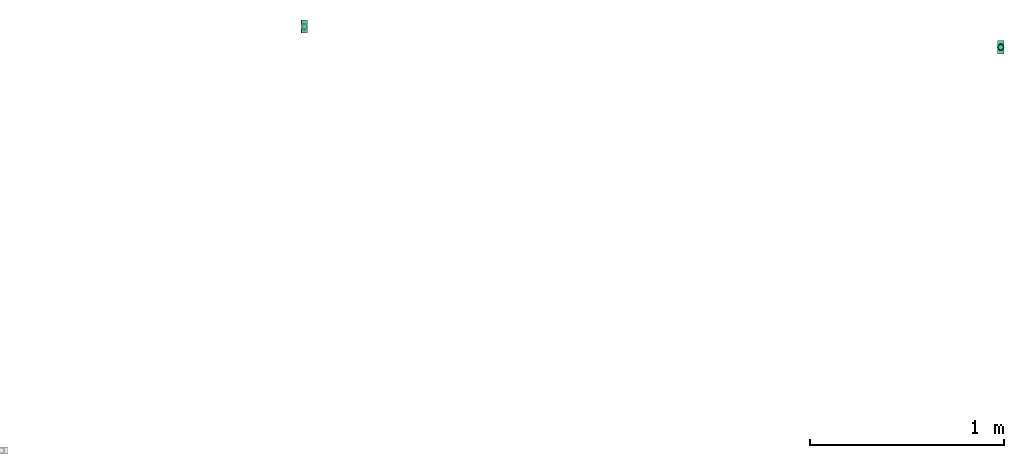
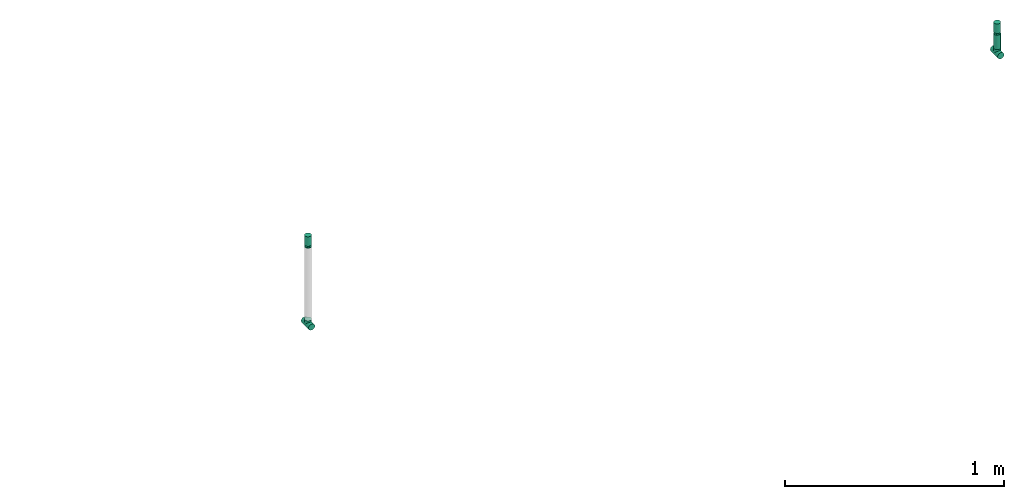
# One storey, part 2 of 2: 4 flow fittings, 2 flow terminals, 1 flow segment.
"""IFC2X3 building model written with IfcOpenShell, lengths in millimetres."""

from ifc_helpers import new_model, entity, si_unit, converted_unit, derived_unit, direction, frame, origin_with_axes, origin_2d_with_axis, place, context, subcontext, project, spatial, hollow_circle, extrude, open_shell, surface_model, source, transform, mapped, type_object, element, save


model = new_model("IFC2X3")

# Units and contexts
model_context = context("Model", 3, precision=0.01, world=frame((0.0, 4.29681676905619e-09, 0.0)), true_north=direction((4.01073788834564e-13, 1.0)))
plan_context = context("Plan", 3, precision=0.01, world=frame((0.0, 4.29681676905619e-09, 0.0)), true_north=direction((4.01073788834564e-13, 1.0)))
body_context = subcontext(model_context, "Body", "Model", "MODEL_VIEW")
ifc_project = project(units=[converted_unit("PLANEANGLEUNIT", "DEGREE", entity("IfcPositiveLengthMeasure", 0.0174532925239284), si_unit("PLANEANGLEUNIT", "RADIAN"), dimensions=[0, 0, 0, 0, 0, 0, 0]), si_unit("AREAUNIT", "SQUARE_METRE"), si_unit("LENGTHUNIT", "METRE", prefix="MILLI"), si_unit("MASSUNIT", "GRAM", prefix="KILO"), si_unit("POWERUNIT", "WATT"), si_unit("PRESSUREUNIT", "PASCAL", prefix="KILO"), si_unit("FORCEUNIT", "NEWTON", prefix="KILO"), si_unit("ELECTRICVOLTAGEUNIT", "VOLT"), si_unit("ELECTRICCURRENTUNIT", "AMPERE"), si_unit("THERMODYNAMICTEMPERATUREUNIT", "DEGREE_CELSIUS"), si_unit("TIMEUNIT", "SECOND"), si_unit("VOLUMEUNIT", "CUBIC_METRE"), derived_unit("LINEARVELOCITYUNIT", [(si_unit("LENGTHUNIT", "METRE"), 1), (si_unit("TIMEUNIT", "SECOND"), -1)]), derived_unit("VOLUMETRICFLOWRATEUNIT", [(si_unit("VOLUMEUNIT", "CUBIC_METRE"), 1), (si_unit("TIMEUNIT", "SECOND"), -1)]), derived_unit("THERMALTRANSMITTANCEUNIT", [(si_unit("POWERUNIT", "WATT"), 1), (si_unit("THERMODYNAMICTEMPERATUREUNIT", "KELVIN"), -1), (si_unit("AREAUNIT", "SQUARE_METRE"), -1)]), derived_unit("SOUNDPRESSUREUNIT", [(si_unit("PRESSUREUNIT", "PASCAL"), 1)])], contexts=[model_context, plan_context])

# Site, building, storey
site_placement = place(None, frame((0.0, -4.29681676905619e-09, 0.0), z_axis=(0.0, 0.0, 1.0), x_axis=(1.0, 0.0, 0.0)))
site = spatial("IfcSite", under=ifc_project, at=site_placement, CompositionType="ELEMENT")
building_placement = place(site_placement, frame((0.0, 4.29681676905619e-09, 0.0), z_axis=(0.0, 0.0, 1.0), x_axis=(1.0, 0.0, 0.0)))
building = spatial("IfcBuilding", under=site, at=building_placement, Name="mc-building", CompositionType="ELEMENT")
storey_placement = place(building_placement, frame((0.0, 0.0, 205200.0), z_axis=(0.0, 0.0, 1.0), x_axis=(1.0, 0.0, 0.0)))
storey = spatial("IfcBuildingStorey", under=building, at=storey_placement, Name="Nivå D + 1,2 m", CompositionType="ELEMENT", Elevation=205200.0)

# Flow fittings
pipe_fitting_type_1 = type_object("IfcPipeFittingType", Name="magi_pipe_fe_tee_centric_90_NOR", PredefinedType="JUNCTION")
shared_shape_1 = source(origin_with_axes(), body_context, "Body", "SurfaceModel", [
    surface_model("IfcShellBasedSurfaceModel", [(-33.8, 4.37404, -16.32415), (-33.8, 0.0, -16.9), (-33.8, 16.32415, -4.37404), (-33.8, 8.45, -14.63583), (-33.8, 11.9501, -11.9501), (-33.8, 14.63583, -8.45), (-33.8, -16.9, 0.0), (-33.8, -11.9501, -11.9501), (-33.8, -14.63583, -8.45), (-33.8, -8.45, -14.63583), (-33.8, -4.37404, -16.32415), (-33.8, -16.32415, -4.37404), (-33.8, 14.63583, 8.45), (-33.8, 16.32415, 4.37404), (-33.8, -8.45, 14.63583), (-33.8, 8.45, 14.63583), (-33.8, 11.9501, 11.9501), (-33.8, 4.37404, 16.32415), (-33.8, 0.0, 16.9), (-33.8, -11.9501, 11.9501), (-33.8, -14.63583, 8.45), (-33.8, -16.32415, 4.37404), (-33.8, -4.37404, 16.32415), (-33.8, 16.9, 0.0), (33.8, 4.37404, -16.32415), (33.8, -16.9, 0.0), (33.8, 0.0, -16.9), (33.8, 14.63583, -8.45), (33.8, 8.45, -14.63583), (33.8, 16.32415, -4.37404), (33.8, 11.9501, -11.9501), (33.8, -16.32415, 4.37404), (33.8, -8.45, -14.63583), (33.8, -4.37404, -16.32415), (33.8, -11.9501, -11.9501), (33.8, -14.63583, -8.45), (33.8, -16.32415, -4.37404), (33.8, 16.32415, 4.37404), (33.8, 8.45, 14.63583), (33.8, 14.63583, 8.45), (33.8, 11.9501, 11.9501), (33.8, -8.45, 14.63583), (33.8, 4.37404, 16.32415), (33.8, -14.63583, 8.45), (33.8, -11.9501, 11.9501), (33.8, 0.0, 16.9), (33.8, -4.37404, 16.32415), (33.8, 16.9, 0.0), (16.28698, -16.28698, 4.51047), (16.9, -16.9, 0.0), (14.62704, -14.62704, 8.4652), (9.47213, -9.47213, 13.99602), (12.26343, -12.26343, 11.62834), (-16.9, -16.9, 0.0), (-16.28698, -16.28698, 4.51047), (-14.62704, -14.62704, 8.4652), (-12.26343, -12.26343, 11.62834), (-9.47213, -9.47213, 13.99602), (-6.42894, -6.42894, 15.62942), (6.42894, -6.42894, 15.62942), (3.24522, -3.24522, 16.58549), (0.0, 0.0, 16.9), (-3.24522, -3.24522, 16.58549), (3.24522, -3.24522, -16.58549), (0.0, 0.0, -16.9), (-3.24522, -3.24522, -16.58549), (-6.42894, -6.42894, -15.62942), (6.42894, -6.42894, -15.62942), (9.47213, -9.47213, -13.99602), (12.26343, -12.26343, -11.62834), (14.62704, -14.62704, -8.4652), (16.28698, -16.28698, -4.51047), (-9.47213, -9.47213, -13.99602), (-12.26343, -12.26343, -11.62834), (-16.28698, -16.28698, -4.51047), (-14.62704, -14.62704, -8.4652), (4.37404, -25.35, -16.32415), (-16.9, -25.35, 0.0), (0.0, -25.35, -16.9), (14.63583, -25.35, -8.45), (8.45, -25.35, -14.63583), (16.32415, -25.35, -4.37404), (11.9501, -25.35, -11.9501), (-11.9501, -25.35, -11.9501), (-8.45, -25.35, -14.63583), (-4.37404, -25.35, -16.32415), (-14.63583, -25.35, -8.45), (-16.32415, -25.35, -4.37404), (16.9, -25.35, 0.0), (8.45, -25.35, 14.63583), (16.32415, -25.35, 4.37404), (14.63583, -25.35, 8.45), (-8.45, -25.35, 14.63583), (11.9501, -25.35, 11.9501), (4.37404, -25.35, 16.32415), (-16.32415, -25.35, 4.37404), (-11.9501, -25.35, 11.9501), (-14.63583, -25.35, 8.45), (0.0, -25.35, 16.9), (-4.37404, -25.35, 16.32415)], [open_shell([[[0, 1, 2]], [[3, 0, 4]], [[0, 2, 5]], [[4, 0, 5]], [[6, 2, 1]], [[7, 8, 9]], [[1, 10, 9]], [[11, 6, 8]], [[1, 9, 8]], [[1, 8, 6]], [[6, 12, 2]], [[12, 13, 2]], [[14, 12, 6]], [[12, 14, 15]], [[16, 12, 15]], [[17, 15, 18]], [[19, 14, 20]], [[21, 20, 14]], [[22, 18, 14]], [[14, 6, 21]], [[14, 18, 15]], [[23, 2, 13]], [[24, 25, 26]], [[27, 24, 28]], [[27, 29, 24]], [[27, 28, 30]], [[31, 25, 24]], [[26, 32, 33]], [[26, 34, 32]], [[35, 25, 36]], [[35, 34, 26]], [[25, 35, 26]], [[24, 29, 31]], [[29, 37, 38]], [[38, 37, 39]], [[38, 31, 29]], [[38, 39, 40]], [[41, 38, 42]], [[43, 41, 44]], [[41, 43, 31]], [[41, 45, 46]], [[41, 31, 38]], [[42, 45, 41]], [[29, 47, 37]], [[31, 43, 48]], [[25, 31, 49]], [[49, 31, 48]], [[43, 50, 48]], [[44, 41, 51]], [[50, 43, 52]], [[51, 52, 44]], [[52, 43, 44]], [[53, 54, 21]], [[53, 21, 6]], [[21, 54, 20]], [[54, 55, 20]], [[56, 57, 19]], [[19, 20, 56]], [[19, 57, 14]], [[56, 20, 55]], [[14, 57, 58]], [[51, 41, 59]], [[60, 45, 61]], [[59, 46, 60]], [[46, 59, 41]], [[60, 46, 45]], [[61, 45, 42]], [[39, 37, 13]], [[16, 38, 40]], [[12, 40, 39]], [[42, 38, 15]], [[23, 37, 47]], [[62, 61, 18]], [[62, 22, 58]], [[22, 62, 18]], [[58, 22, 14]], [[61, 17, 18]], [[42, 17, 61]], [[15, 17, 42]], [[15, 38, 16]], [[12, 16, 40]], [[13, 12, 39]], [[37, 23, 13]], [[5, 27, 30]], [[23, 47, 29]], [[30, 28, 3]], [[27, 2, 29]], [[26, 33, 63]], [[26, 64, 24]], [[64, 26, 63]], [[28, 24, 0]], [[64, 0, 24]], [[4, 30, 3]], [[2, 27, 5]], [[5, 30, 4]], [[2, 23, 29]], [[65, 66, 10]], [[1, 0, 64]], [[1, 65, 10]], [[66, 9, 10]], [[0, 3, 28]], [[1, 64, 65]], [[63, 33, 67]], [[32, 34, 68]], [[69, 68, 34]], [[35, 70, 69]], [[69, 34, 35]], [[32, 68, 67]], [[36, 25, 49]], [[36, 71, 35]], [[71, 36, 49]], [[35, 71, 70]], [[72, 9, 66]], [[72, 7, 9]], [[7, 72, 73]], [[7, 73, 8]], [[74, 53, 11]], [[75, 74, 8]], [[74, 11, 8]], [[11, 53, 6]], [[75, 8, 73]], [[32, 67, 33]], [[76, 77, 78]], [[79, 76, 80]], [[79, 81, 76]], [[79, 80, 82]], [[77, 76, 81]], [[78, 83, 84]], [[84, 85, 78]], [[86, 77, 87]], [[83, 78, 86]], [[77, 86, 78]], [[81, 88, 77]], [[89, 88, 90]], [[89, 90, 91]], [[92, 77, 89]], [[89, 91, 93]], [[92, 89, 94]], [[95, 96, 97]], [[96, 95, 92]], [[92, 98, 99]], [[95, 77, 92]], [[94, 98, 92]], [[89, 77, 88]], [[77, 95, 53]], [[54, 53, 95]], [[97, 96, 56]], [[96, 92, 57]], [[95, 97, 54]], [[58, 92, 99]], [[55, 54, 97]], [[56, 55, 97]], [[58, 57, 92]], [[98, 61, 62]], [[58, 99, 62]], [[56, 96, 57]], [[62, 99, 98]], [[94, 60, 98]], [[89, 59, 94]], [[91, 90, 48]], [[52, 93, 91]], [[93, 51, 89]], [[49, 90, 88]], [[59, 60, 94]], [[51, 59, 89]], [[49, 48, 90]], [[50, 52, 91]], [[48, 50, 91]], [[51, 93, 52]], [[98, 60, 61]], [[88, 81, 49]], [[71, 49, 81]], [[79, 82, 69]], [[82, 80, 68]], [[81, 79, 71]], [[67, 80, 76]], [[70, 71, 79]], [[69, 70, 79]], [[67, 68, 80]], [[78, 64, 63]], [[67, 76, 63]], [[69, 82, 68]], [[63, 76, 78]], [[85, 65, 78]], [[84, 66, 85]], [[86, 87, 74]], [[86, 73, 83]], [[72, 84, 83]], [[53, 87, 77]], [[66, 65, 85]], [[72, 66, 84]], [[53, 74, 87]], [[75, 73, 86]], [[74, 75, 86]], [[72, 83, 73]], [[78, 65, 64]]])]),
])
for number, where, z_axis, x_axis, name in (
    (1, (598972.72783, 404497.47697, 1263.04800000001), (1.0, 0.0, 0.0), (0.0, -1.0, 0.0), "magi_pipe_fe_tee_centric_90_NOR"),
    (2, (602552.91449, 404391.26037, 1590.0), (1.0, 0.0, 0.0), (0.0, -1.0, 0.0), "magi_pipe_fe_tee_centric_90_NOR"),
):
    element("IfcFlowFitting", number, at=place(storey_placement, frame(where, z_axis=z_axis, x_axis=x_axis)), inside=storey, type_object=pipe_fitting_type_1, Name=name, context=body_context, shape_type="MappedRepresentation", body=[
        mapped(shared_shape_1, transform((0.0, 0.0, 0.0), scale=1.0)),
    ])
pipe_fitting_type_2 = type_object("IfcPipeFittingType", Name="magi_pipe_fe_reducer_centric_short_NOR", PredefinedType="TRANSITION")
shared_shape_2 = source(origin_with_axes(), body_context, "Body", "SurfaceModel", [
    surface_model("IfcShellBasedSurfaceModel", [(-2.0, -7.56604, -7.56604), (-2.0, -10.33541, -2.76936), (-2.0, -5.35, -9.26647), (-2.0, 5.35, -9.26647), (-2.0, 10.33541, -2.76936), (-2.0, 7.56604, -7.56604), (12.4, 11.9501, 11.9501), (12.4, 0.0, 16.9), (12.4, 11.9501, -11.9501), (12.4, 16.9, 0.0), (0.0, -10.7, 0.0), (0.0, -5.35, 9.26647), (0.0, -5.35, -9.26647), (0.0, 10.7, 0.0), (12.4, 15.66253, -2.98753), (12.4, 8.96258, -13.18758), (0.0, 6.6875, -6.94985), (12.4, -15.66253, -2.98753), (12.4, -16.9, 0.0), (12.4, 5.97505, -14.42505), (0.0, 5.35, -9.26647), (12.4, 14.42505, -5.97505), (0.0, 8.025, -4.63324), (0.0, 9.3625, -2.31662), (0.0, -9.3625, -2.31662), (0.0, -8.025, -4.63324), (12.4, -14.42505, -5.97505), (12.4, 13.18758, -8.96258), (12.4, -13.18758, -8.96258), (12.4, -11.9501, -11.9501), (0.0, -6.6875, -6.94985), (12.4, -8.96258, -13.18758), (12.4, -5.97505, -14.42505), (12.4, -15.66253, 2.98753), (12.4, -8.96258, 13.18758), (0.0, -6.6875, 6.94985), (12.4, -11.9501, 11.9501), (12.4, 15.66253, 2.98753), (12.4, -5.97505, 14.42505), (12.4, -14.42505, 5.97505), (0.0, -8.025, 4.63324), (0.0, -9.3625, 2.31662), (0.0, 9.3625, 2.31662), (0.0, 8.025, 4.63324), (12.4, 14.42505, 5.97505), (12.4, -13.18758, 8.96258), (12.4, 13.18758, 8.96258), (0.0, 6.6875, 6.94985), (12.4, 8.96258, 13.18758), (0.0, 5.35, 9.26647), (12.4, 5.97505, 14.42505), (14.4, 4.37404, -16.32415), (14.4, 8.45, -14.63583), (14.4, 11.9501, -11.9501), (14.4, -8.45, -14.63583), (14.4, 16.32415, -4.37404), (14.4, 16.32415, 4.37404), (14.4, 14.63583, -8.45), (14.4, 0.0, -16.9), (14.4, -4.37404, -16.32415), (14.4, -11.9501, -11.9501), (14.4, -16.32415, -4.37404), (14.4, -14.63583, -8.45), (14.4, -16.32415, 4.37404), (14.4, 16.9, 0.0), (14.4, 14.63583, 8.45), (14.4, 11.9501, 11.9501), (14.4, 4.37404, 16.32415), (14.4, 8.45, 14.63583), (14.4, 0.0, 16.9), (14.4, -14.63583, 8.45), (14.4, -16.9, 0.0), (14.4, -8.45, 14.63583), (14.4, -11.9501, 11.9501), (14.4, -4.37404, 16.32415), (12.4, 4.37404, 16.32415), (12.4, -14.63583, 8.45), (12.4, 16.32415, 4.37404), (12.4, 8.45, 14.63583), (12.4, 14.63583, 8.45), (12.4, -8.45, 14.63583), (12.4, -4.37404, 16.32415), (12.4, -16.32415, 4.37404), (12.4, -16.32415, -4.37404), (12.4, -8.45, -14.63583), (12.4, 16.32415, -4.37404), (12.4, 14.63583, -8.45), (12.4, 8.45, -14.63583), (12.4, 4.37404, -16.32415), (12.4, 0.0, -16.9), (12.4, -14.63583, -8.45), (12.4, -4.37404, -16.32415), (-2.0, 2.76936, 10.33541), (-2.0, 0.0, 10.7), (-2.0, 5.35, 9.26647), (-2.0, 7.56604, 7.56604), (-2.0, 9.26647, 5.35), (-2.0, 10.33541, 2.76936), (-2.0, -10.33541, 2.76936), (-2.0, -2.76936, 10.33541), (-2.0, -7.56604, 7.56604), (-2.0, -5.35, 9.26647), (-2.0, -9.26647, 5.35), (-2.0, -10.7, 0.0), (-2.0, 9.26647, -5.35), (-2.0, 2.76936, -10.33541), (-2.0, -9.26647, -5.35), (-2.0, 0.0, -10.7), (-2.0, -2.76936, -10.33541), (-2.0, 10.7, 0.0), (0.0, 0.0, -10.7), (0.0, 2.76936, -10.33541), (0.0, 10.33541, -2.76936), (0.0, 7.56604, -7.56604), (0.0, -10.33541, -2.76936), (0.0, 9.26647, -5.35), (0.0, 0.0, 10.7), (0.0, -2.76936, -10.33541), (0.0, -7.56604, -7.56604), (0.0, -9.26647, -5.35), (0.0, 10.33541, 2.76936), (0.0, 9.26647, 5.35), (0.0, 7.56604, 7.56604), (0.0, 2.76936, 10.33541), (0.0, -7.56604, 7.56604), (0.0, -10.33541, 2.76936), (0.0, -9.26647, 5.35), (0.0, -2.76936, 10.33541), (0.0, 2.675, -9.26647), (0.0, -2.675, -9.26647), (12.4, 2.98753, -15.66253), (0.0, 0.0, -9.26647), (12.4, -2.98753, -15.66253), (0.0, -2.675, 9.26647), (0.0, 2.675, 9.26647), (12.4, -2.98753, 15.66253), (0.0, 0.0, 9.26647), (12.4, 2.98753, 15.66253)], [open_shell([[[0, 1, 2]], [[3, 4, 5]], [[6, 7, 8]], [[8, 9, 6]], [[10, 11, 12]], [[13, 9, 14]], [[15, 16, 8]], [[17, 18, 10]], [[15, 19, 20]], [[21, 22, 23]], [[24, 25, 26]], [[22, 21, 27]], [[28, 26, 25]], [[29, 30, 31]], [[12, 32, 31]], [[10, 18, 33]], [[34, 35, 36]], [[37, 9, 13]], [[34, 38, 11]], [[39, 40, 41]], [[42, 43, 44]], [[40, 39, 45]], [[46, 44, 43]], [[6, 47, 48]], [[49, 50, 48]], [[51, 52, 53]], [[54, 51, 53]], [[53, 55, 56]], [[55, 53, 57]], [[53, 56, 54]], [[58, 54, 59]], [[58, 51, 54]], [[60, 61, 62]], [[61, 60, 54]], [[54, 63, 61]], [[56, 55, 64]], [[56, 65, 66]], [[56, 66, 67]], [[67, 63, 54]], [[67, 66, 68]], [[63, 67, 69]], [[69, 70, 63]], [[71, 61, 63]], [[70, 72, 73]], [[70, 69, 72]], [[72, 69, 74]], [[54, 56, 67]], [[75, 76, 7]], [[77, 75, 78]], [[6, 79, 77]], [[6, 77, 78]], [[76, 75, 77]], [[80, 76, 36]], [[80, 81, 7]], [[7, 76, 80]], [[82, 76, 77]], [[82, 83, 18]], [[82, 77, 84]], [[77, 85, 8]], [[8, 85, 86]], [[8, 87, 88]], [[84, 77, 8]], [[88, 89, 8]], [[83, 29, 90]], [[29, 83, 84]], [[84, 89, 91]], [[83, 82, 84]], [[8, 89, 84]], [[85, 77, 9]], [[83, 61, 18]], [[90, 62, 83]], [[54, 29, 84]], [[90, 29, 60]], [[59, 84, 91]], [[83, 62, 61]], [[61, 71, 18]], [[59, 54, 84]], [[60, 29, 54]], [[60, 62, 90]], [[58, 59, 91]], [[91, 89, 58]], [[88, 51, 89]], [[87, 52, 88]], [[57, 8, 86]], [[87, 8, 53]], [[55, 86, 85]], [[87, 53, 52]], [[52, 51, 88]], [[64, 55, 85]], [[57, 86, 55]], [[57, 53, 8]], [[9, 64, 85]], [[89, 51, 58]], [[77, 56, 9]], [[79, 65, 77]], [[68, 6, 78]], [[79, 6, 66]], [[67, 78, 75]], [[77, 65, 56]], [[56, 64, 9]], [[67, 68, 78]], [[66, 6, 68]], [[66, 65, 79]], [[69, 67, 75]], [[75, 7, 69]], [[81, 74, 7]], [[80, 72, 81]], [[70, 36, 76]], [[80, 36, 73]], [[63, 76, 82]], [[80, 73, 72]], [[72, 74, 81]], [[71, 63, 82]], [[70, 76, 63]], [[70, 73, 36]], [[18, 71, 82]], [[7, 74, 69]], [[92, 1, 93]], [[94, 1, 92]], [[95, 96, 97]], [[95, 97, 94]], [[98, 93, 1]], [[99, 100, 101]], [[99, 93, 100]], [[100, 98, 102]], [[93, 98, 100]], [[98, 1, 103]], [[94, 97, 1]], [[1, 97, 4]], [[5, 4, 104]], [[4, 3, 1]], [[105, 1, 3]], [[1, 0, 106]], [[2, 107, 108]], [[2, 1, 105]], [[105, 107, 2]], [[4, 97, 109]], [[20, 110, 111]], [[112, 20, 113]], [[114, 20, 112]], [[112, 113, 115]], [[116, 114, 112]], [[110, 12, 117]], [[110, 20, 12]], [[118, 114, 119]], [[114, 118, 12]], [[20, 114, 12]], [[112, 13, 120]], [[120, 121, 122]], [[120, 122, 123]], [[116, 112, 123]], [[123, 122, 49]], [[116, 124, 114]], [[125, 124, 126]], [[10, 114, 125]], [[124, 127, 11]], [[125, 114, 124]], [[127, 124, 116]], [[123, 112, 120]], [[1, 114, 103]], [[106, 119, 1]], [[12, 0, 2]], [[106, 0, 118]], [[117, 2, 108]], [[1, 119, 114]], [[114, 10, 103]], [[117, 12, 2]], [[118, 0, 12]], [[118, 119, 106]], [[110, 117, 108]], [[108, 107, 110]], [[105, 111, 107]], [[3, 20, 105]], [[115, 5, 104]], [[3, 5, 113]], [[112, 104, 4]], [[3, 113, 20]], [[20, 111, 105]], [[13, 112, 4]], [[115, 104, 112]], [[115, 113, 5]], [[109, 13, 4]], [[107, 111, 110]], [[97, 120, 109]], [[96, 121, 97]], [[49, 95, 94]], [[96, 95, 122]], [[123, 94, 92]], [[97, 121, 120]], [[120, 13, 109]], [[123, 49, 94]], [[122, 95, 49]], [[122, 121, 96]], [[116, 123, 92]], [[92, 93, 116]], [[99, 127, 93]], [[101, 11, 99]], [[126, 100, 102]], [[101, 100, 124]], [[125, 102, 98]], [[101, 124, 11]], [[11, 127, 99]], [[10, 125, 98]], [[126, 102, 125]], [[126, 124, 100]], [[103, 10, 98]], [[93, 127, 116]], [[18, 7, 36]], [[18, 29, 8]], [[89, 8, 29]], [[18, 8, 7]], [[13, 11, 49]], [[13, 20, 12]], [[13, 12, 11]], [[24, 26, 17]], [[10, 24, 17]], [[16, 15, 20]], [[30, 12, 31]], [[23, 14, 21]], [[19, 128, 20]], [[27, 8, 16]], [[32, 12, 129]], [[30, 28, 25]], [[130, 131, 128]], [[129, 132, 32]], [[16, 22, 27]], [[13, 14, 23]], [[128, 19, 130]], [[130, 89, 131]], [[131, 132, 129]], [[89, 132, 131]], [[28, 30, 29]], [[42, 44, 37]], [[13, 42, 37]], [[35, 34, 11]], [[47, 49, 48]], [[41, 33, 39]], [[38, 133, 11]], [[45, 36, 35]], [[50, 49, 134]], [[47, 46, 43]], [[135, 136, 133]], [[134, 137, 50]], [[35, 40, 45]], [[10, 33, 41]], [[133, 38, 135]], [[135, 7, 136]], [[136, 137, 134]], [[7, 137, 136]], [[46, 47, 6]]])]),
])
for number, where, z_axis, x_axis, name in (
    (3, (598972.72783, 404497.47697, 1708.04800000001), (0.0, -1.0, 0.0), (0.0, 0.0, -1.0), "magi_pipe_fe_reducer_centric_short_NOR"),
    (4, (602552.91449, 404391.26037, 1708.04800000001), (0.0, -1.0, 0.0), (0.0, 0.0, -1.0), "magi_pipe_fe_reducer_centric_short_NOR"),
):
    element("IfcFlowFitting", number, at=place(storey_placement, frame(where, z_axis=z_axis, x_axis=x_axis)), inside=storey, type_object=pipe_fitting_type_2, Name=name, context=body_context, shape_type="MappedRepresentation", body=[
        mapped(shared_shape_2, transform((0.0, 0.0, 0.0), scale=1.0)),
    ])

# Flow segment
pipe_segment_type = type_object("IfcPipeSegmentType", Name="Stålrør normaltykke", PredefinedType="RIGIDSEGMENT")
shared_shape_3 = source(origin_with_axes(), body_context, "Body", "SweptSolid", [
    extrude(hollow_circle(Radius=16.9, WallThickness=2.0, at=origin_2d_with_axis()), frame((0.0, 0.0, 0.0), z_axis=(1.0, 0.0, 0.0), x_axis=(0.0, 1.0, 0.0)), (0.0, 0.0, 1.0), 80.3),
])
flow_segment_placement = place(storey_placement, frame((602552.91449, 404391.26037, 1695.64799999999), z_axis=(0.0, -1.0, 0.0), x_axis=(0.0, 0.0, -1.0)))
element("IfcFlowSegment", 5, at=flow_segment_placement, inside=storey, type_object=pipe_segment_type, Name="Stålrør normaltykke", context=body_context, shape_type="MappedRepresentation", body=[
    mapped(shared_shape_3, transform((0.0, 0.0, 0.0), scale=1.0)),
])

# Flow terminals
fire_suppression_terminal_type = type_object("IfcFireSuppressionTerminalType", Name="SP-15-K80-68DGR-STD-STÅENDE", PredefinedType="NOTDEFINED")
shared_shape_4 = source(origin_with_axes(), body_context, "Body", "SurfaceModel", [
    surface_model("IfcShellBasedSurfaceModel", [(4.1411, -15.45481, 53.0), (8.0, -13.85641, 53.0), (11.31371, -11.31371, 53.0), (-8.0, -13.85641, 53.0), (15.45481, -4.1411, 53.0), (16.0, 0.0, 53.0), (13.85641, -8.0, 53.0), (0.0, -16.0, 53.0), (-4.1411, -15.45481, 53.0), (-13.85641, -8.0, 53.0), (-11.31371, -11.31371, 53.0), (-15.45481, -4.1411, 53.0), (15.45481, 4.1411, 53.0), (13.85641, 8.0, 53.0), (11.31371, 11.31371, 53.0), (-4.1411, 15.45481, 53.0), (8.0, 13.85641, 53.0), (4.1411, 15.45481, 53.0), (0.0, 16.0, 53.0), (-13.85641, 8.0, 53.0), (-15.45481, 4.1411, 53.0), (-16.0, 0.0, 53.0), (-11.31371, 11.31371, 53.0), (-8.0, 13.85641, 53.0), (0.0, 16.0, 0.0), (4.1411, 15.45481, 0.0), (8.0, 13.85641, 0.0), (-4.1411, 15.45481, 0.0), (11.31371, 11.31371, 0.0), (13.85641, 8.0, 0.0), (15.45481, 4.1411, 0.0), (-15.45481, -4.1411, 0.0), (-11.31371, 11.31371, 0.0), (-8.0, 13.85641, 0.0), (-13.85641, 8.0, 0.0), (-15.45481, 4.1411, 0.0), (-16.0, 0.0, 0.0), (4.1411, -15.45481, 0.0), (16.0, 0.0, 0.0), (15.45481, -4.1411, 0.0), (13.85641, -8.0, 0.0), (11.31371, -11.31371, 0.0), (8.0, -13.85641, 0.0), (-8.0, -13.85641, 0.0), (-13.85641, -8.0, 0.0), (-11.31371, -11.31371, 0.0), (0.0, -16.0, 0.0), (-4.1411, -15.45481, 0.0)], [open_shell([[[0, 1, 2]], [[3, 0, 2]], [[4, 5, 2]], [[4, 2, 6]], [[3, 2, 5]], [[7, 3, 8]], [[7, 0, 3]], [[3, 9, 10]], [[9, 3, 11]], [[5, 11, 3]], [[5, 12, 11]], [[12, 13, 14]], [[15, 12, 14]], [[16, 17, 18]], [[14, 16, 15]], [[18, 15, 16]], [[11, 19, 20]], [[21, 11, 20]], [[22, 15, 23]], [[15, 22, 19]], [[19, 11, 15]], [[11, 12, 15]], [[24, 25, 26]], [[27, 24, 26]], [[28, 29, 30]], [[27, 26, 28]], [[27, 28, 31]], [[27, 32, 33]], [[32, 27, 34]], [[34, 31, 35]], [[31, 34, 27]], [[35, 31, 36]], [[28, 30, 31]], [[37, 38, 39]], [[37, 39, 40]], [[41, 42, 37]], [[41, 37, 40]], [[38, 37, 43]], [[44, 43, 45]], [[43, 44, 31]], [[43, 46, 47]], [[43, 31, 38]], [[37, 46, 43]], [[38, 31, 30]], [[11, 31, 44]], [[45, 9, 44]], [[3, 43, 47]], [[45, 43, 10]], [[8, 47, 46]], [[31, 21, 36]], [[31, 11, 21]], [[44, 9, 11]], [[45, 10, 9]], [[3, 10, 43]], [[47, 8, 3]], [[46, 7, 8]], [[0, 37, 42]], [[41, 1, 42]], [[6, 40, 39]], [[41, 40, 2]], [[4, 39, 38]], [[37, 0, 7]], [[42, 1, 0]], [[41, 2, 1]], [[40, 6, 2]], [[4, 6, 39]], [[38, 5, 4]], [[37, 7, 46]], [[12, 38, 30]], [[13, 30, 29]], [[16, 26, 25]], [[17, 25, 24]], [[30, 13, 12]], [[12, 5, 38]], [[28, 14, 13]], [[28, 26, 14]], [[14, 26, 16]], [[25, 17, 16]], [[28, 13, 29]], [[24, 18, 17]], [[15, 27, 33]], [[32, 23, 33]], [[19, 34, 35]], [[32, 34, 22]], [[20, 35, 36]], [[27, 15, 18]], [[33, 23, 15]], [[32, 22, 23]], [[34, 19, 22]], [[20, 19, 35]], [[36, 21, 20]], [[27, 18, 24]]])]),
])
for number, where, z_axis, x_axis in (
    (6, (598972.72783, 404497.47697, 1705.0), (0.0, 0.0, 1.0), (-1.0, 0.0, 0.0)),
    (7, (602552.91449, 404391.26037, 1705.0), (0.0, 0.0, 1.0), (-1.0, 0.0, 0.0)),
):
    element("IfcFlowTerminal", number, at=place(storey_placement, frame(where, z_axis=z_axis, x_axis=x_axis)), inside=storey, type_object=fire_suppression_terminal_type, Name="SP-15-K80-68DGR-STD-STÅENDE", context=body_context, shape_type="MappedRepresentation", body=[
        mapped(shared_shape_4, transform((0.0, 0.0, 0.0), scale=1.0)),
    ])

save(model, "model.ifc")
